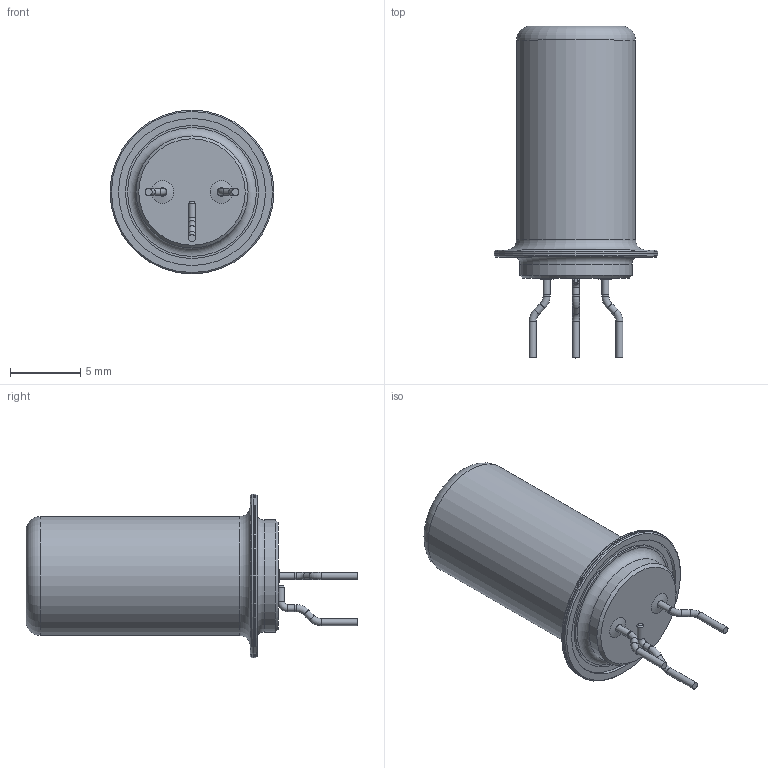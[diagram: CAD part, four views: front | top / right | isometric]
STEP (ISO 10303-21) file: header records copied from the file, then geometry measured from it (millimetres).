
FILE_DESCRIPTION (( 'STEP AP214' ), '1' );
FILE_NAME ('Ï1.49à2.STEP', '2015-07-18T16:52:35', ( 'Michael' ), ( '' ), 'SwSTEP 2.0', 'SolidWorks 2014', '' );
FILE_SCHEMA (( 'AUTOMOTIVE_DESIGN' ));
Length unit declared in the file: millimetre
Products named in the file (6): Ïð.Âûâîä ãíóòûé; Âûâîä ïðÿìîé; ﾂ鏆鮏 肬隆; Âñòàâêà; 扻豵鵨; Ï1.49à2
Assembly tree (9 placements, depth 2):
  Ï1.49à2
    扻豵鵨
    Âñòàâêà  x2
    ﾂ鏆鮏 肬隆
    Âûâîä ïðÿìîé  x2
    Ïð.Âûâîä ãíóòûé  x3
Bounding box: 11.7 x 23.7 x 11.7 mm (x, y, z)
Volume: 1034.9 mm3; surface area: 769 mm2
Topology: 9 solids, 9 shells, 65 faces, 100 edges, 59 vertices
Faces by surface type: plane 24, cylinder 23, torus 10, cone 8
Full cylindrical faces by diameter (mm): 0.5 x13, 1.6 x4, 8 x1, 8.5 x1, 9.5 x1, 10.5 x1, 11.7 x2
Entity records: 1108 total; most frequent: DIRECTION 190, CARTESIAN_POINT 134, AXIS2_PLACEMENT_3D 95, EDGE_LOOP 78, ORIENTED_EDGE 78, FACE_OUTER_BOUND 65, ADVANCED_FACE 44, VERTEX_POINT 39
